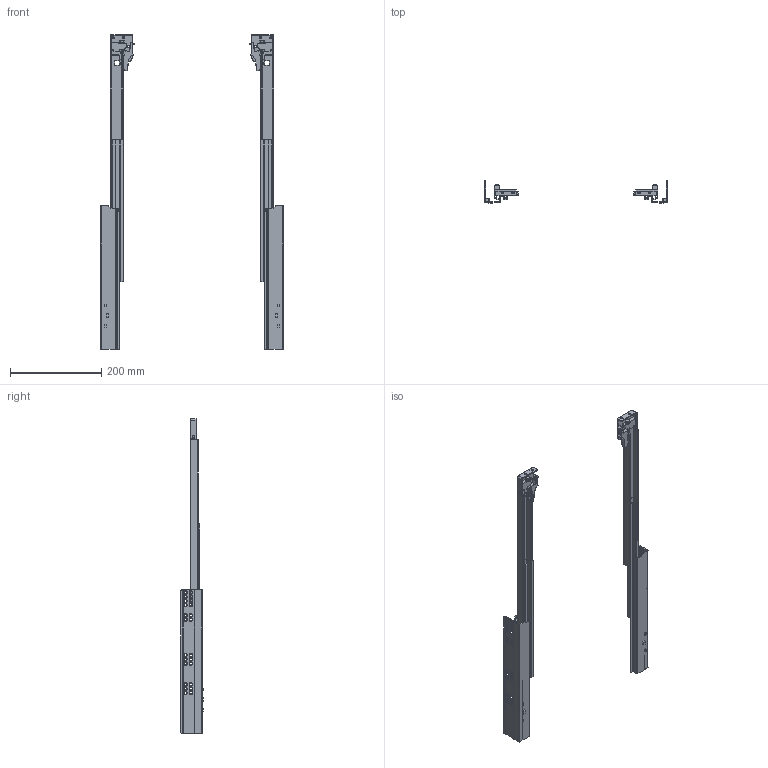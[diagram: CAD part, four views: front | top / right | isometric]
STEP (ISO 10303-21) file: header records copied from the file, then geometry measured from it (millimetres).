
FILE_DESCRIPTION(/* description */ (''),/* implementation_level */ '2;1');
FILE_NAME(/* name */ 'D:\$Workingspace\Designs\Katalog\Cadsoft\GTV Prowadnice\Prowadnice GTV_bryły 3D\PB-0SHX-400-A_wysuw.stp',/* time_stamp */ '2016-11-21T12:52:52+01:00',/* author */ ('tomaszw'),/* organization */ (''),/* preprocessor_version */ 'ST-DEVELOPER v16.1',/* originating_system */ 'Autodesk Inventor 2016',/* authorisation */ '');
FILE_SCHEMA (('AUTOMOTIVE_DESIGN { 1 0 10303 214 3 1 1 }'));
Products named in the file (9): PB-0SHX-CL-400; PB-0SHX-CR-400; PB-0SHX-DL-400; PB-0SHX-DR-400; PB-0SHX-DWL-400; PB-0SHX-DWR-400; PB-0SHX-SL; PB-0SHX-SR; PB-0SHX
Assembly tree (8 placements, depth 2):
  PB-0SHX
    PB-0SHX-CL-400
    PB-0SHX-CR-400
    PB-0SHX-DL-400
    PB-0SHX-DR-400
    PB-0SHX-DWL-400
    PB-0SHX-DWR-400
    PB-0SHX-SL
    PB-0SHX-SR
Bounding box: 400 x 48.8 x 688.5 mm (x, y, z)
Volume: 269357.6 mm3; surface area: 331245.3 mm2
Topology: 14 solids, 14 shells, 3456 faces, 8186 edges, 4762 vertices
Faces by surface type: bspline 1080, cylinder 924, torus 550, plane 462, sphere 332, cone 108
Full cylindrical faces by diameter (mm): 3.64 x2, 4 x6, 4.5 x6, 5.64 x2, 6 x48
Entity records: 143347 total; most frequent: CARTESIAN_POINT 66015, ORIENTED_EDGE 15976, DIRECTION 14400, EDGE_CURVE 7988, AXIS2_PLACEMENT_3D 6195, VERTEX_POINT 4706, CIRCLE 3756, EDGE_LOOP 3734
